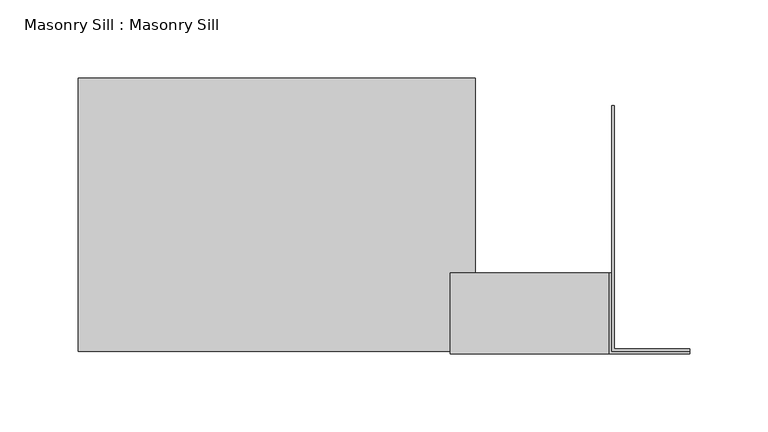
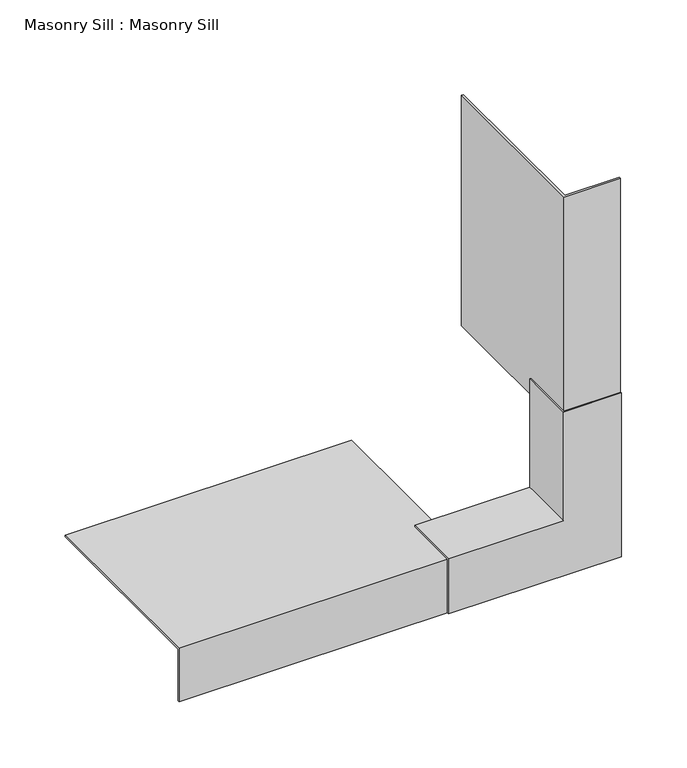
"""IFC4 building model written with IfcOpenShell, lengths in millimetres: proxy geometry, Masonry Sill : Masonry Sill."""

from ifc_helpers import new_model, si_unit, frame, origin, place, context, project, spatial, polyline, outline, extrude, faceted_brep, source, transform, mapped, element, save


def masonry_sill_masonry_sill_535ab80c(model_context):
    return source(origin(), model_context, "Body", "SolidModel", [
        extrude(outline(polyline([(26855.8851773, 632.3941297), (26855.8851773, 789.5566297), (26857.4726773, 789.5566297), (26857.4726773, 633.9816297), (26905.8899931, 633.9816297), (26905.8899931, 632.3941297), (26855.8851773, 632.3941297)])), frame((0.0, 0.0, 546.1), z_axis=(0.0, 0.0, 1.0), x_axis=(1.0, 0.0, 0.0)), (0.0, 0.0, 1.0), 215.9),
        faceted_brep([(26752.6976773, 630.8066297, 408.7826842), (26752.6976773, 630.8066297, 460.375), (26752.6976773, 682.3989454, 460.375), (26752.6976773, 682.3989454, 458.7875), (26752.6976773, 632.3941297, 458.7875), (26752.6976773, 632.3941297, 408.7826842), (26905.8899931, 632.3941297, 408.7826842), (26905.8899931, 630.8066297, 408.7826842), (26855.8851773, 632.3941297, 458.7875), (26855.8851773, 632.3941297, 561.975), (26905.8899931, 632.3941297, 561.975), (26855.8851773, 682.3989454, 458.7875), (26854.2976773, 682.3989454, 460.375), (26854.2976773, 682.3989454, 561.975), (26855.8851773, 682.3989454, 561.975), (26854.2976773, 630.8066297, 460.375), (26905.8899931, 630.8066297, 561.975), (26854.2976773, 630.8066297, 561.975)], [[[0, 1, 2, 3, 4, 5]], [[0, 5, 6, 7]], [[5, 4, 8, 9, 10, 6]], [[4, 3, 11, 8]], [[3, 2, 12, 13, 14, 11]], [[2, 1, 15, 12]], [[1, 0, 7, 16, 17, 15]], [[16, 10, 9, 14, 13, 17]], [[7, 6, 10, 16]], [[8, 11, 14, 9]], [[12, 15, 17, 13]]]),
        extrude(outline(polyline([(632.3941297, 458.7875), (807.2950925, 458.7875), (807.2950925, 457.2), (633.9816297, 457.2), (633.9816297, 408.7826842), (632.3941297, 408.7826842), (632.3941297, 458.7875)])), frame((26514.5726773, 0.0, 0.0), z_axis=(1.0, 0.0, 0.0), x_axis=(0.0, 1.0, 0.0)), (0.0, 0.0, 1.0), 254.0),
    ])


if __name__ == "__main__":
    model = new_model("IFC4")
    model_context = context("Model", 3, world=origin())
    ifc_project = project(units=[si_unit("LENGTHUNIT", "METRE", prefix="MILLI")], contexts=[model_context])
    site = spatial("IfcSite", under=ifc_project)
    building = spatial("IfcBuilding", under=site)
    placement = place(None, origin())
    masonry_sill_masonry_sill_shape = masonry_sill_masonry_sill_535ab80c(model_context)
    element("IfcBuildingElementProxy", 1, Name="Masonry Sill : Masonry Sill", ObjectType="Masonry Sill : Masonry Sill", at=placement, inside=building, context=model_context, shape_type="MappedRepresentation", body=[
        mapped(masonry_sill_masonry_sill_shape, transform((0.0, 0.0, 0.0), x_axis=(1.0, 0.0, 0.0), y_axis=(0.0, 1.0, 0.0), z_axis=(0.0, 0.0, 1.0))),
    ])
    save(model, "model.ifc")
